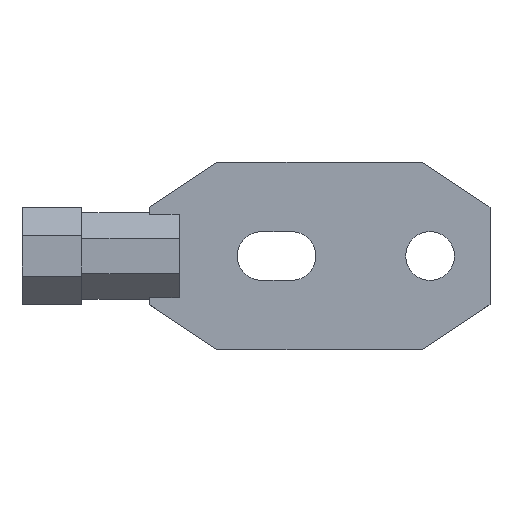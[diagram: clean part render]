
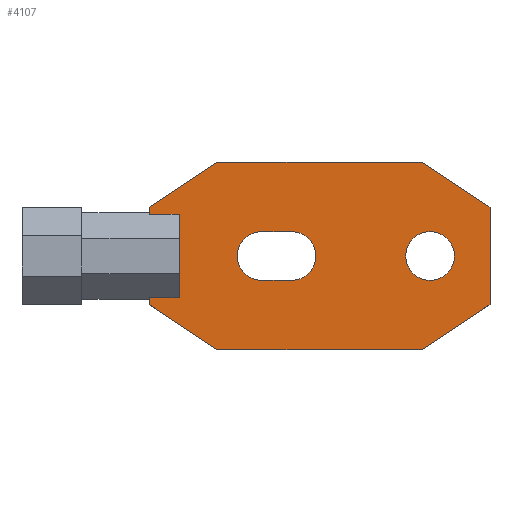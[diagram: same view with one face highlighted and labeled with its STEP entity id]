
A CAD part, top view. The second image highlights one B-rep face of the part: STEP entity #4107.
In plain terms, the highlighted planar face has unit normal (0, 0, 1) as drawn and (0, 1, 0) by its records, which use the part's own axes.
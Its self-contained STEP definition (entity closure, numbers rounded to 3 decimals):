
#3838=CARTESIAN_POINT('',(-75.,5.,0.));
#3839=DIRECTION('',(0.,-1.,0.));
#3840=DIRECTION('',(1.,0.,0.));
#3841=AXIS2_PLACEMENT_3D('',#3838,#3839,#3840);
#3843=CARTESIAN_POINT('',(-75.,5.,0.));
#3844=DIRECTION('',(0.,-1.,0.));
#3845=DIRECTION('',(-1.,0.,0.));
#3846=AXIS2_PLACEMENT_3D('',#3843,#3844,#3845);
#3848=CARTESIAN_POINT('',(-30.,5.,0.));
#3849=DIRECTION('',(0.,-1.,0.));
#3850=DIRECTION('',(0.,0.,-1.));
#3851=AXIS2_PLACEMENT_3D('',#3848,#3849,#3850);
#3853=DIRECTION('',(1.,0.,0.));
#3854=VECTOR('',#3853,8.);
#3855=CARTESIAN_POINT('',(-38.,5.,-6.5));
#3856=LINE('',#3855,#3854);
#3857=CARTESIAN_POINT('',(-38.,5.,0.));
#3858=DIRECTION('',(0.,-1.,0.));
#3859=DIRECTION('',(0.,0.,1.));
#3860=AXIS2_PLACEMENT_3D('',#3857,#3858,#3859);
#3862=DIRECTION('',(-1.,0.,0.));
#3863=VECTOR('',#3862,8.);
#3864=CARTESIAN_POINT('',(-30.,5.,6.5));
#3865=LINE('',#3864,#3863);
#3866=DIRECTION('',(0.832,0.,0.555));
#3867=VECTOR('',#3866,21.633);
#3868=CARTESIAN_POINT('',(-18.,5.,-25.));
#3869=LINE('',#3868,#3867);
#3870=DIRECTION('',(0.,0.,-1.));
#3871=VECTOR('',#3870,26.);
#3872=CARTESIAN_POINT('',(0.,5.,13.));
#3873=LINE('',#3872,#3871);
#3874=DIRECTION('',(-0.832,0.,0.555));
#3875=VECTOR('',#3874,21.633);
#3876=CARTESIAN_POINT('',(0.,5.,13.));
#3877=LINE('',#3876,#3875);
#3878=DIRECTION('',(1.,0.,0.));
#3879=VECTOR('',#3878,55.);
#3880=CARTESIAN_POINT('',(-73.,5.,25.));
#3881=LINE('',#3880,#3879);
#3882=DIRECTION('',(-0.832,0.,-0.555));
#3883=VECTOR('',#3882,21.633);
#3884=CARTESIAN_POINT('',(-73.,5.,25.));
#3885=LINE('',#3884,#3883);
#3886=DIRECTION('',(0.,0.,1.));
#3887=VECTOR('',#3886,26.);
#3888=CARTESIAN_POINT('',(-91.,5.,-13.));
#3889=LINE('',#3888,#3887);
#3890=DIRECTION('',(0.832,0.,-0.555));
#3891=VECTOR('',#3890,21.633);
#3892=CARTESIAN_POINT('',(-91.,5.,-13.));
#3893=LINE('',#3892,#3891);
#3894=DIRECTION('',(-1.,0.,0.));
#3895=VECTOR('',#3894,55.);
#3896=CARTESIAN_POINT('',(-18.,5.,-25.));
#3897=LINE('',#3896,#3895);
#3950=CARTESIAN_POINT('',(-68.5,5.,0.));
#3951=CARTESIAN_POINT('',(-81.5,5.,0.));
#3952=VERTEX_POINT('',#3950);
#3953=VERTEX_POINT('',#3951);
#3962=CARTESIAN_POINT('',(-30.,5.,-6.5));
#3963=CARTESIAN_POINT('',(-30.,5.,6.5));
#3964=VERTEX_POINT('',#3962);
#3965=VERTEX_POINT('',#3963);
#3966=CARTESIAN_POINT('',(-38.,5.,6.5));
#3967=VERTEX_POINT('',#3966);
#3968=CARTESIAN_POINT('',(-38.,5.,-6.5));
#3969=VERTEX_POINT('',#3968);
#3986=CARTESIAN_POINT('',(-18.,5.,-25.));
#3987=CARTESIAN_POINT('',(0.,5.,-13.));
#3988=VERTEX_POINT('',#3986);
#3989=VERTEX_POINT('',#3987);
#3990=CARTESIAN_POINT('',(-91.,5.,-13.));
#3991=CARTESIAN_POINT('',(-73.,5.,-25.));
#3992=VERTEX_POINT('',#3990);
#3993=VERTEX_POINT('',#3991);
#3994=CARTESIAN_POINT('',(0.,5.,13.));
#3995=CARTESIAN_POINT('',(-18.,5.,25.));
#3996=VERTEX_POINT('',#3994);
#3997=VERTEX_POINT('',#3995);
#3998=CARTESIAN_POINT('',(-73.,5.,25.));
#3999=CARTESIAN_POINT('',(-91.,5.,13.));
#4000=VERTEX_POINT('',#3998);
#4001=VERTEX_POINT('',#3999);
#4070=CARTESIAN_POINT('',(0.,5.,0.));
#4071=DIRECTION('',(0.,1.,0.));
#4072=DIRECTION('',(1.,0.,0.));
#4073=AXIS2_PLACEMENT_3D('',#4070,#4071,#4072);
#4074=PLANE('',#4073);
#4076=ORIENTED_EDGE('',*,*,#4075,.T.);
#4078=ORIENTED_EDGE('',*,*,#4077,.F.);
#4080=ORIENTED_EDGE('',*,*,#4079,.T.);
#4082=ORIENTED_EDGE('',*,*,#4081,.F.);
#4084=ORIENTED_EDGE('',*,*,#4083,.T.);
#4086=ORIENTED_EDGE('',*,*,#4085,.F.);
#4088=ORIENTED_EDGE('',*,*,#4087,.T.);
#4090=ORIENTED_EDGE('',*,*,#4089,.F.);
#4091=EDGE_LOOP('',(#4076,#4078,#4080,#4082,#4084,#4086,#4088,#4090));
#4092=FACE_OUTER_BOUND('',#4091,.F.);
#4093=ORIENTED_EDGE('',*,*,#4050,.F.);
#4094=ORIENTED_EDGE('',*,*,#4064,.F.);
#4095=EDGE_LOOP('',(#4093,#4094));
#4096=FACE_BOUND('',#4095,.F.);
#4098=ORIENTED_EDGE('',*,*,#4097,.F.);
#4100=ORIENTED_EDGE('',*,*,#4099,.F.);
#4102=ORIENTED_EDGE('',*,*,#4101,.F.);
#4104=ORIENTED_EDGE('',*,*,#4103,.F.);
#4105=EDGE_LOOP('',(#4098,#4100,#4102,#4104));
#4106=FACE_BOUND('',#4105,.F.);
#4107=ADVANCED_FACE('',(#4092,#4096,#4106),#4074,.T.);
#3842=CIRCLE('',#3841,6.5);
#3847=CIRCLE('',#3846,6.5);
#3852=CIRCLE('',#3851,6.5);
#3861=CIRCLE('',#3860,6.5);
#4050=EDGE_CURVE('',#3952,#3953,#3842,.T.);
#4064=EDGE_CURVE('',#3953,#3952,#3847,.T.);
#4075=EDGE_CURVE('',#3988,#3989,#3869,.T.);
#4077=EDGE_CURVE('',#3996,#3989,#3873,.T.);
#4079=EDGE_CURVE('',#3996,#3997,#3877,.T.);
#4081=EDGE_CURVE('',#4000,#3997,#3881,.T.);
#4083=EDGE_CURVE('',#4000,#4001,#3885,.T.);
#4085=EDGE_CURVE('',#3992,#4001,#3889,.T.);
#4087=EDGE_CURVE('',#3992,#3993,#3893,.T.);
#4089=EDGE_CURVE('',#3988,#3993,#3897,.T.);
#4097=EDGE_CURVE('',#3964,#3965,#3852,.T.);
#4099=EDGE_CURVE('',#3969,#3964,#3856,.T.);
#4101=EDGE_CURVE('',#3967,#3969,#3861,.T.);
#4103=EDGE_CURVE('',#3965,#3967,#3865,.T.);
